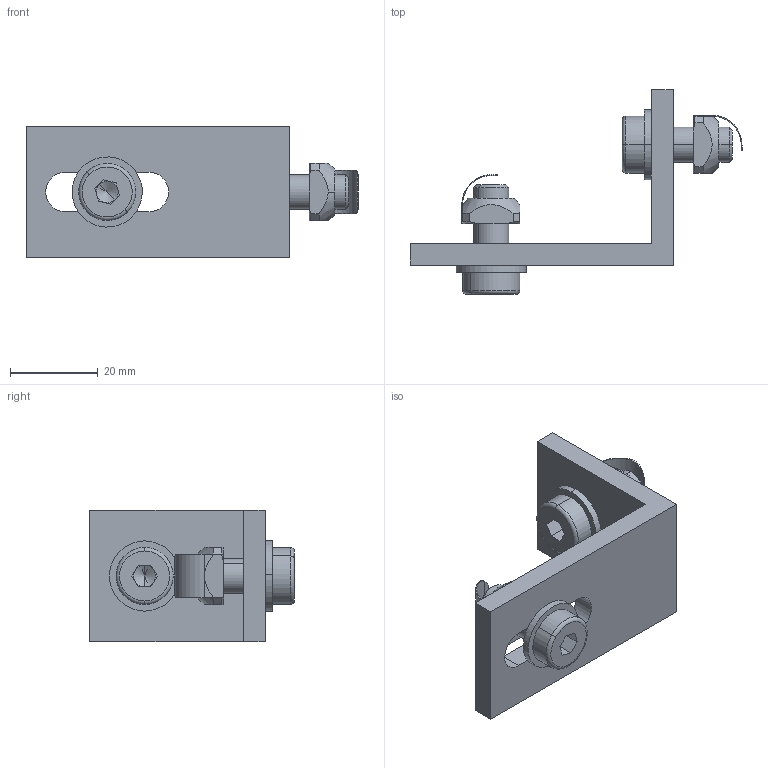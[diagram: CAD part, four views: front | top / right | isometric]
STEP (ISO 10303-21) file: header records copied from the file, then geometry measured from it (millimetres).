
FILE_DESCRIPTION (( 'STEP AP214' ), '1' );
FILE_NAME ('1.3079 Suojarakenteen kiinnityskulma.STEP', '2026-03-10T07:43:50', ( '' ), ( '' ), 'SwSTEP 2.0', 'SolidWorks 2025', '' );
FILE_SCHEMA (( 'AUTOMOTIVE_DESIGN' ));
Length unit declared in the file: millimetre
Products named in the file (1): 1.3079 Suojarakenteen kiinnityskulma
Bounding box: 75.65 x 46.6 x 30 mm (x, y, z)
Volume: 17685.8 mm3; surface area: 11327.6 mm2
Topology: 7 solids, 7 shells, 146 faces, 348 edges, 216 vertices
Faces by surface type: plane 88, cylinder 32, cone 18, torus 8
Entity records: 6177 total; most frequent: CARTESIAN_POINT 1253, DIRECTION 706, ORIENTED_EDGE 688, EDGE_CURVE 344, AXIS2_PLACEMENT_3D 253, VERTEX_POINT 216, LINE 200, VECTOR 200
